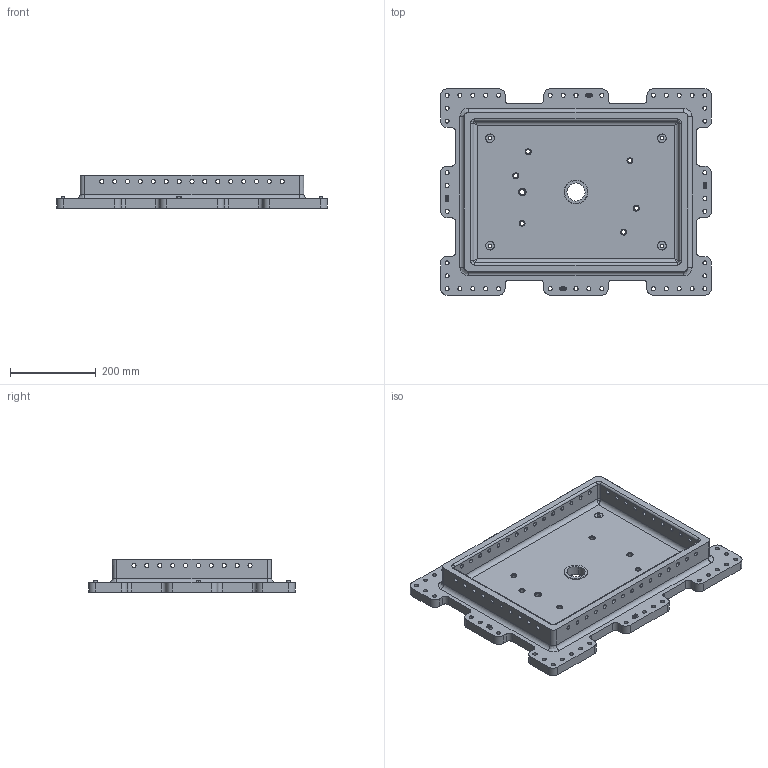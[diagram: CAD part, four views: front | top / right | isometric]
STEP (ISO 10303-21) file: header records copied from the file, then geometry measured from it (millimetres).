
FILE_DESCRIPTION(('CATIA V5 STEP Exchange'),'2;1');
FILE_NAME('C:\Users\Administrator\Desktop\EGT022_B80111057306400000000_Clampact.stp','2024-08-16T13:09:08+00:00',('none'),('none'),'Version 5-6 Release 2012','CATIA V5 STEP AP203','none');
FILE_SCHEMA(('CONFIG_CONTROL_DESIGN'));
Length unit declared in the file: millimetre
Products named in the file (1): EGT022_h-grundrahmen_450X600_sw80_Clampact
Bounding box: 630 x 480 x 79 mm (x, y, z)
Volume: 7906035.7 mm3; surface area: 869369.7 mm2
Topology: 13 solids, 13 shells, 647 faces, 1650 edges, 1080 vertices
Faces by surface type: cylinder 428, plane 153, cone 44, bspline 16, torus 6
Entity records: 23087 total; most frequent: CARTESIAN_POINT 7834, ORIENTED_EDGE 3292, DIRECTION 2485, EDGE_CURVE 1646, AXIS2_PLACEMENT_3D 1275, VERTEX_POINT 1080, EDGE_LOOP 942, CIRCLE 727
